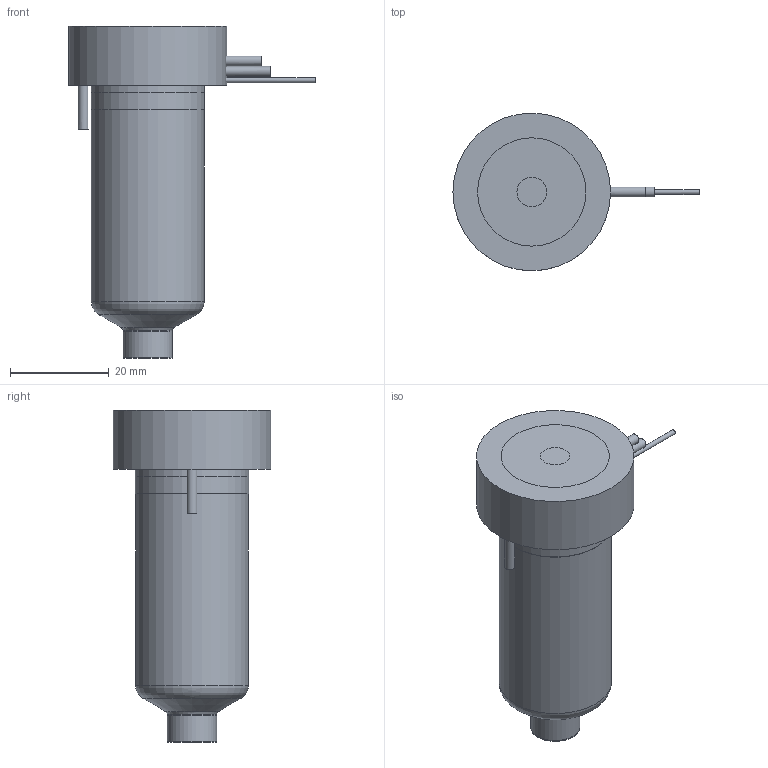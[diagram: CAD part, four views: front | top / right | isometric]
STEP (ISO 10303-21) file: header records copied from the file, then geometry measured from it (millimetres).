
FILE_DESCRIPTION(/* description */ (''),/* implementation_level */ '2;1');
FILE_NAME(/* name */ 'MXTBE13055_250C_a',/* time_stamp */ '2016-03-02T15:55:57+13:00',/* author */ (''),/* organization */ (''),/* preprocessor_version */ 'ST-DEVELOPER v9',/* originating_system */ 'UGS - NX 4.0',/* authorisation */ '');
FILE_SCHEMA (('CONFIG_CONTROL_DESIGN'));
Length unit declared in the file: millimetre
Products named in the file (1): matt3462e0oh
Bounding box: 49.95 x 32 x 67.38 mm (x, y, z)
Volume: 49716.5 mm3; surface area: 12073.3 mm2
Topology: 2 solids, 2 shells, 69 faces, 153 edges, 100 vertices
Faces by surface type: plane 30, cylinder 25, torus 7, cone 6, bspline 1
Full cylindrical faces by diameter (mm): 0.9 x1, 1 x2, 2 x3, 6 x1, 9.61 x1, 10.01 x2, 12.6 x1, 18.8 x1, 22.9 x1, 23 x2, 32 x1
Entity records: 2081 total; most frequent: CARTESIAN_POINT 608, DIRECTION 306, ORIENTED_EDGE 230, AXIS2_PLACEMENT_3D 137, EDGE_CURVE 115, EDGE_LOOP 110, VERTEX_POINT 89, ADVANCED_FACE 69
